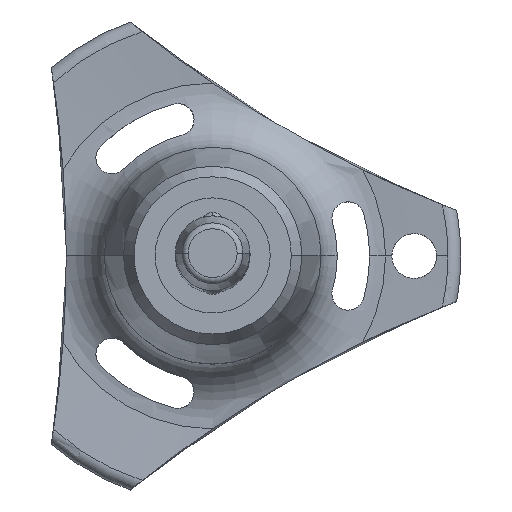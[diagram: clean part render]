
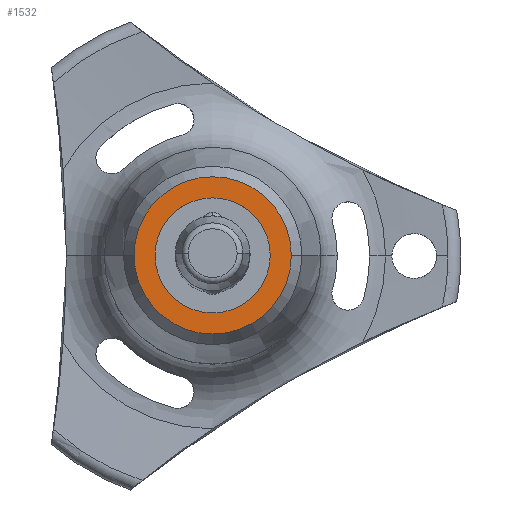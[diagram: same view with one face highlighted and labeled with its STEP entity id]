
A CAD part, top view. The second image highlights one B-rep face of the part: STEP entity #1532.
In plain terms, the highlighted planar face has unit normal (0, 0, 1).
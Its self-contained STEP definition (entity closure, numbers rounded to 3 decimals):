
#90 = EDGE_LOOP ( 'NONE', ( #1907, #103 ) ) ;
#103 = ORIENTED_EDGE ( 'NONE', *, *, #2414, .F. ) ;
#117 = CIRCLE ( 'NONE', #1901, 5.262 ) ;
#196 = EDGE_LOOP ( 'NONE', ( #1556, #1510 ) ) ;
#199 = EDGE_CURVE ( 'NONE', #329, #883, #747, .T. ) ;
#225 = DIRECTION ( 'NONE',  ( 0., 0., -1. ) ) ;
#278 = DIRECTION ( 'NONE',  ( -1., 0., 0. ) ) ;
#296 = CARTESIAN_POINT ( 'NONE',  ( 3.852, 0., -80.4 ) ) ;
#329 = VERTEX_POINT ( 'NONE', #296 ) ;
#601 = DIRECTION ( 'NONE',  ( 1., 0., 0. ) ) ;
#747 = CIRCLE ( 'NONE', #2198, 3.852 ) ;
#883 = VERTEX_POINT ( 'NONE', #1975 ) ;
#974 = CIRCLE ( 'NONE', #2552, 3.852 ) ;
#1135 = DIRECTION ( 'NONE',  ( 0., 0., -1. ) ) ;
#1179 = CARTESIAN_POINT ( 'NONE',  ( 0., 0., -80.4 ) ) ;
#1304 = CARTESIAN_POINT ( 'NONE',  ( 0., 0., -80.4 ) ) ;
#1314 = DIRECTION ( 'NONE',  ( -1., 0., 0. ) ) ;
#1381 = PLANE ( 'NONE',  #1898 ) ;
#1424 = FACE_OUTER_BOUND ( 'NONE', #90, .T. ) ;
#1461 = DIRECTION ( 'NONE',  ( 0., 0., -1. ) ) ;
#1474 = DIRECTION ( 'NONE',  ( -1., 0., 0. ) ) ;
#1510 = ORIENTED_EDGE ( 'NONE', *, *, #199, .T. ) ;
#1532 = ADVANCED_FACE ( 'NONE', ( #2662, #1424 ), #1381, .T. ) ;
#1556 = ORIENTED_EDGE ( 'NONE', *, *, #2107, .T. ) ;
#1609 = CARTESIAN_POINT ( 'NONE',  ( 0., 3.852, -80.4 ) ) ;
#1790 = DIRECTION ( 'NONE',  ( 0., 0., 1. ) ) ;
#1855 = CIRCLE ( 'NONE', #2645, 5.262 ) ;
#1878 = CARTESIAN_POINT ( 'NONE',  ( -5.262, 0., -80.4 ) ) ;
#1898 = AXIS2_PLACEMENT_3D ( 'NONE', #1609, #1790, #601 ) ;
#1901 = AXIS2_PLACEMENT_3D ( 'NONE', #1179, #2576, #2619 ) ;
#1907 = ORIENTED_EDGE ( 'NONE', *, *, #2207, .F. ) ;
#1975 = CARTESIAN_POINT ( 'NONE',  ( -3.852, 0., -80.4 ) ) ;
#2012 = CARTESIAN_POINT ( 'NONE',  ( 5.262, 0., -80.4 ) ) ;
#2017 = VERTEX_POINT ( 'NONE', #2012 ) ;
#2065 = CARTESIAN_POINT ( 'NONE',  ( 0., 0., -80.4 ) ) ;
#2107 = EDGE_CURVE ( 'NONE', #883, #329, #974, .T. ) ;
#2198 = AXIS2_PLACEMENT_3D ( 'NONE', #1304, #1461, #1474 ) ;
#2207 = EDGE_CURVE ( 'NONE', #2410, #2017, #117, .T. ) ;
#2410 = VERTEX_POINT ( 'NONE', #1878 ) ;
#2414 = EDGE_CURVE ( 'NONE', #2017, #2410, #1855, .T. ) ;
#2552 = AXIS2_PLACEMENT_3D ( 'NONE', #2065, #225, #1314 ) ;
#2572 = CARTESIAN_POINT ( 'NONE',  ( 0., 0., -80.4 ) ) ;
#2576 = DIRECTION ( 'NONE',  ( 0., 0., -1. ) ) ;
#2619 = DIRECTION ( 'NONE',  ( -1., 0., 0. ) ) ;
#2645 = AXIS2_PLACEMENT_3D ( 'NONE', #2572, #1135, #278 ) ;
#2662 = FACE_BOUND ( 'NONE', #196, .T. ) ;
